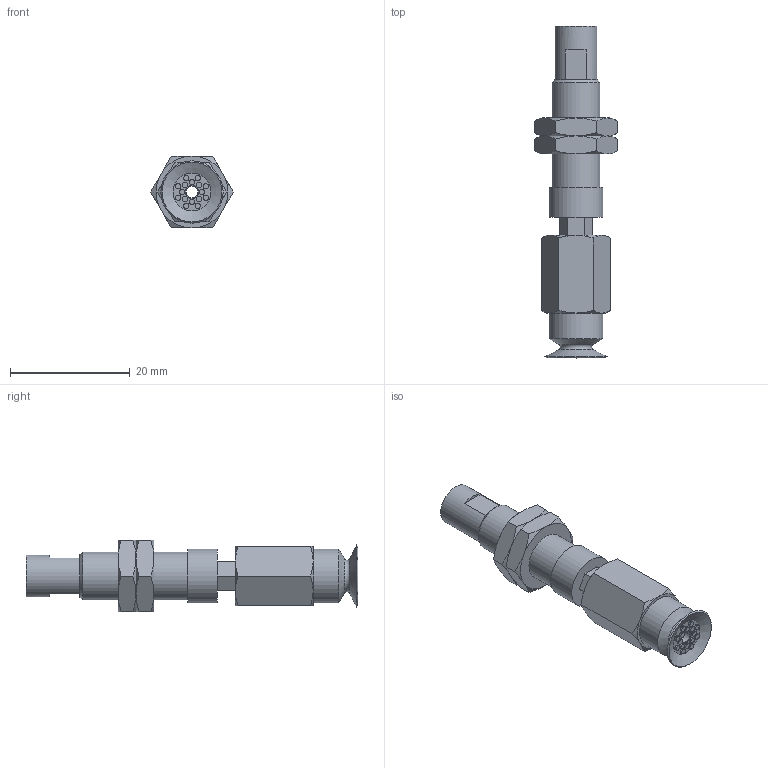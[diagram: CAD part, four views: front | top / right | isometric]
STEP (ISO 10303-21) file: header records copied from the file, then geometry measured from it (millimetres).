
FILE_DESCRIPTION(('STEP AP203'),'1');
FILE_NAME('.stp','2025-08-11T08:10:07',(' '),(' '),'Spatial InterOp 3D',' ',' ');
FILE_SCHEMA(('CONFIG_CONTROL_DESIGN'));
Length unit declared in the file: millimetre
Products named in the file (6): BNABPATH-10A-3-※; NAPATH-10A-3--M; NAPATH-10A-3--F; Nut-10A-S; BPAG-10A-※; ADAPTER
Assembly tree (6 placements, depth 2):
  BNABPATH-10A-3-※
    NAPATH-10A-3--M
    NAPATH-10A-3--F
    Nut-10A-S  x2
    BPAG-10A-※
    ADAPTER
Bounding box: 13.86 x 55.5 x 12 mm (x, y, z)
Volume: 3379.2 mm3; surface area: 3987.1 mm2
Topology: 6 solids, 6 shells, 155 faces, 313 edges, 193 vertices
Faces by surface type: plane 69, cone 46, cylinder 30, torus 10
Full cylindrical faces by diameter (mm): 0.9 x16, 2 x3, 4 x2, 4.134 x1, 6 x2, 7 x1, 7.188 x2, 8 x1, 9 x2
Entity records: 3620 total; most frequent: CARTESIAN_POINT 793, DIRECTION 542, ORIENTED_EDGE 418, AXIS2_PLACEMENT_3D 242, EDGE_LOOP 212, EDGE_CURVE 209, FACE_OUTER_BOUND 171, VERTEX_POINT 157
